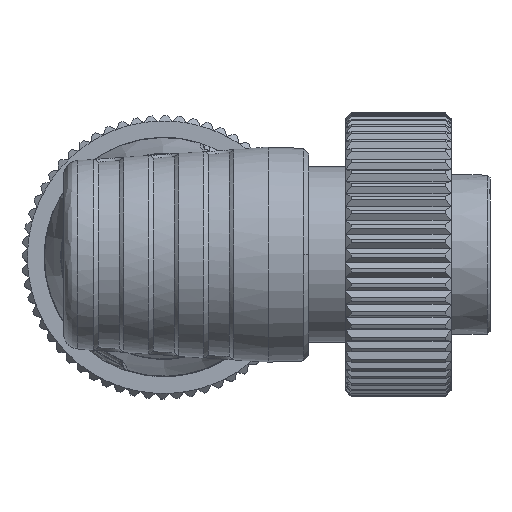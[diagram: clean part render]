
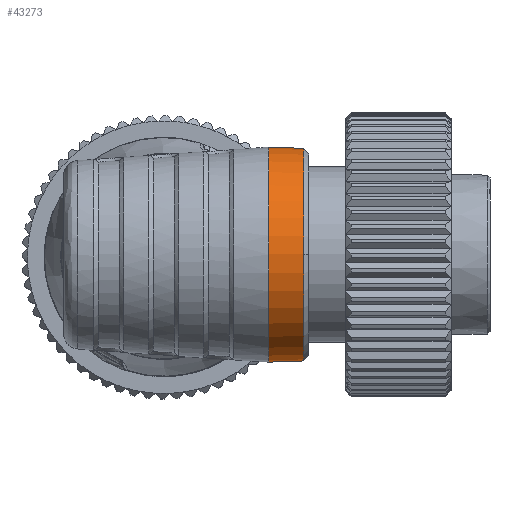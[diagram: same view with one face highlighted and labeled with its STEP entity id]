
A CAD part, top view. The second image highlights one B-rep face of the part: STEP entity #43273.
In plain terms, the highlighted conical face has half-angle 2 degrees and reference radius 9.733 mm.
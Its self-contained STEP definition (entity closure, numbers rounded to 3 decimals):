
#4577 = AXIS2_PLACEMENT_3D ( 'NONE', #38943, #87825, #47403 ) ;
#5407 = DIRECTION ( 'NONE',  ( -1., 0., 0. ) ) ;
#5939 = CARTESIAN_POINT ( 'NONE',  ( 9.45, -9.675, 151.85 ) ) ;
#6633 = VERTEX_POINT ( 'NONE', #66207 ) ;
#13329 = ORIENTED_EDGE ( 'NONE', *, *, #43824, .T. ) ;
#23953 = EDGE_CURVE ( 'NONE', #37341, #104587, #56081, .T. ) ;
#27883 = CARTESIAN_POINT ( 'NONE',  ( 12.6, 0., 151.85 ) ) ;
#28640 = ORIENTED_EDGE ( 'NONE', *, *, #23953, .T. ) ;
#31395 = DIRECTION ( 'NONE',  ( 0., -1., 0. ) ) ;
#34960 = AXIS2_PLACEMENT_3D ( 'NONE', #102119, #5407, #62793 ) ;
#37341 = VERTEX_POINT ( 'NONE', #92922 ) ;
#37599 = CIRCLE ( 'NONE', #4577, 9.675 ) ;
#38943 = CARTESIAN_POINT ( 'NONE',  ( 9.45, 0., 151.85 ) ) ;
#40485 = EDGE_CURVE ( 'NONE', #77144, #6633, #37599, .T. ) ;
#41046 = VECTOR ( 'NONE', #86277, 1000. ) ;
#42553 = VERTEX_POINT ( 'NONE', #54180 ) ;
#43273 = ADVANCED_FACE ( 'NONE', ( #99495 ), #78017, .T. ) ;
#43824 = EDGE_CURVE ( 'NONE', #104587, #6633, #70252, .T. ) ;
#46515 = CIRCLE ( 'NONE', #34960, 9.565 ) ;
#47403 = DIRECTION ( 'NONE',  ( 0., 1., 0. ) ) ;
#49119 = ORIENTED_EDGE ( 'NONE', *, *, #87942, .T. ) ;
#54180 = CARTESIAN_POINT ( 'NONE',  ( 12.6, -9.565, 151.85 ) ) ;
#56081 = CIRCLE ( 'NONE', #103796, 9.565 ) ;
#57805 = ORIENTED_EDGE ( 'NONE', *, *, #88222, .F. ) ;
#59788 = DIRECTION ( 'NONE',  ( -1., 0., 0. ) ) ;
#62793 = DIRECTION ( 'NONE',  ( 0., 0., 1. ) ) ;
#62985 = CARTESIAN_POINT ( 'NONE',  ( 7.796, 0., 151.85 ) ) ;
#64537 = CARTESIAN_POINT ( 'NONE',  ( 12.6, 9.565, 151.85 ) ) ;
#66207 = CARTESIAN_POINT ( 'NONE',  ( 9.45, 9.675, 151.85 ) ) ;
#67720 = DIRECTION ( 'NONE',  ( -0.999, -0.035, 0. ) ) ;
#68082 = CARTESIAN_POINT ( 'NONE',  ( 7.796, -9.733, 151.85 ) ) ;
#70252 = LINE ( 'NONE', #86611, #41046 ) ;
#73186 = VECTOR ( 'NONE', #67720, 1000. ) ;
#73211 = ORIENTED_EDGE ( 'NONE', *, *, #40485, .F. ) ;
#75831 = DIRECTION ( 'NONE',  ( 0., -1., 0. ) ) ;
#77144 = VERTEX_POINT ( 'NONE', #5939 ) ;
#78017 = CONICAL_SURFACE ( 'NONE', #93446, 9.733, 0.035 ) ;
#78299 = LINE ( 'NONE', #68082, #73186 ) ;
#86177 = EDGE_LOOP ( 'NONE', ( #28640, #13329, #73211, #57805, #49119 ) ) ;
#86277 = DIRECTION ( 'NONE',  ( -0.999, 0.035, 0. ) ) ;
#86611 = CARTESIAN_POINT ( 'NONE',  ( 7.796, 9.733, 151.85 ) ) ;
#87825 = DIRECTION ( 'NONE',  ( -1., 0., 0. ) ) ;
#87942 = EDGE_CURVE ( 'NONE', #42553, #37341, #46515, .T. ) ;
#88222 = EDGE_CURVE ( 'NONE', #42553, #77144, #78299, .T. ) ;
#92922 = CARTESIAN_POINT ( 'NONE',  ( 12.6, 0., 161.415 ) ) ;
#93446 = AXIS2_PLACEMENT_3D ( 'NONE', #62985, #96234, #31395 ) ;
#96234 = DIRECTION ( 'NONE',  ( -1., 0., 0. ) ) ;
#99495 = FACE_OUTER_BOUND ( 'NONE', #86177, .T. ) ;
#102119 = CARTESIAN_POINT ( 'NONE',  ( 12.6, 0., 151.85 ) ) ;
#103796 = AXIS2_PLACEMENT_3D ( 'NONE', #27883, #59788, #75831 ) ;
#104587 = VERTEX_POINT ( 'NONE', #64537 ) ;
